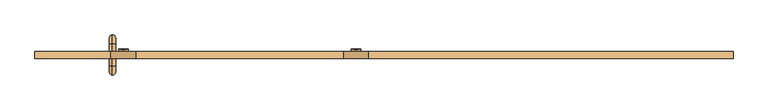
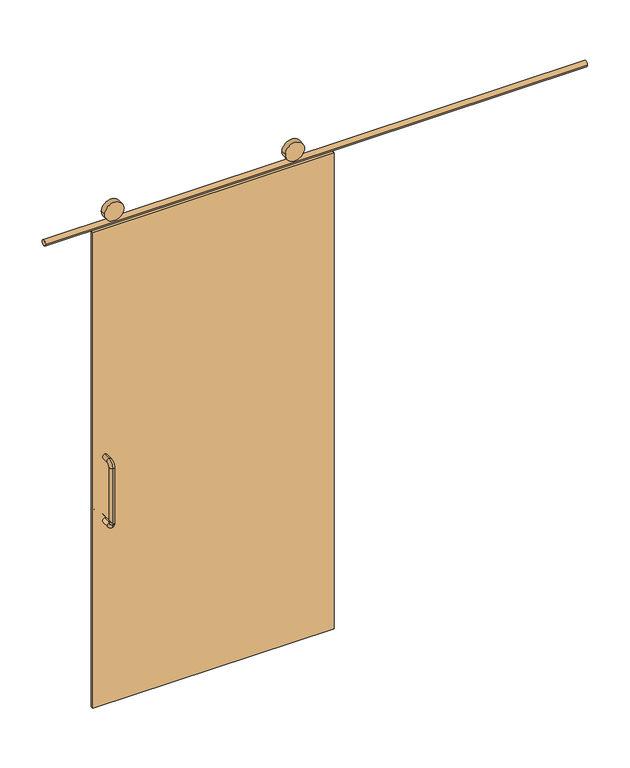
"""IFC4 building model written with IfcOpenShell, lengths in millimetres: door geometry, GLASSLINE_SKJUTDÖRR GLAS : GLASSLINE_SKJUTDÖRR GLAS."""

from ifc_helpers import new_model, si_unit, point, frame, frame_2d, origin, origin_with_axes, place, context, project, spatial, polyline, circle_curve, ellipse_curve, trimmed, segment, composite_curve, outline, extrude, source, transform, mapped, element, save
from ifc_brep_helpers import plane_surface, cylinder_surface, revolved_surface, advanced_brep


def door_12e92a34(model_context):
    return source(origin(), model_context, "Body", "SolidModel", [
        extrude(outline(composite_curve([segment(trimmed(circle_curve(frame_2d((2156.2499989, 335.0000488)), 15.0), [point((2156.2499989, 350.0000488))], [point((2156.2499989, 320.0000488))], False, "CARTESIAN"), True, "CONTINUOUS"), segment(trimmed(circle_curve(frame_2d((2156.2499989, 335.0000488)), 15.0), [point((2156.2499989, 320.0000488))], [point((2156.2499989, 350.0000488))], False, "CARTESIAN"), True, "CONTINUOUS")], self_intersect=False)), frame((0.0, 53.5002228, 0.0), z_axis=(0.0, 1.0, 0.0), x_axis=(0.0, 0.0, 1.0)), (0.0, 0.0, 1.0), 1.9998779),
        extrude(outline(composite_curve([segment(trimmed(circle_curve(frame_2d((2020.2500153, 335.0000488)), 15.0), [point((2020.2500153, 350.0000488))], [point((2020.2500153, 320.0000488))], False, "CARTESIAN"), True, "CONTINUOUS"), segment(trimmed(circle_curve(frame_2d((2020.2500153, 335.0000488)), 15.0), [point((2020.2500153, 320.0000488))], [point((2020.2500153, 350.0000488))], False, "CARTESIAN"), True, "CONTINUOUS")], self_intersect=False)), frame((0.0, 53.5002228, 0.0), z_axis=(0.0, 1.0, 0.0), x_axis=(0.0, 0.0, 1.0)), (0.0, 0.0, 1.0), 1.9998779),
        extrude(outline(composite_curve([segment(trimmed(circle_curve(frame_2d((1940.2501019, 335.0000488)), 15.0), [point((1940.2501019, 350.0000488))], [point((1940.2501019, 320.0000488))], False, "CARTESIAN"), True, "CONTINUOUS"), segment(trimmed(circle_curve(frame_2d((1940.2501019, 335.0000488)), 15.0), [point((1940.2501019, 320.0000488))], [point((1940.2501019, 350.0000488))], False, "CARTESIAN"), True, "CONTINUOUS")], self_intersect=False)), frame((0.0, 53.5002228, 0.0), z_axis=(0.0, 1.0, 0.0), x_axis=(0.0, 0.0, 1.0)), (0.0, 0.0, 1.0), 1.9998779),
        extrude(outline(composite_curve([segment(trimmed(circle_curve(frame_2d((2156.2499989, -415.0)), 15.0), [point((2156.2499989, -400.0))], [point((2156.2499989, -430.0))], False, "CARTESIAN"), True, "CONTINUOUS"), segment(trimmed(circle_curve(frame_2d((2156.2499989, -415.0)), 15.0), [point((2156.2499989, -430.0))], [point((2156.2499989, -400.0))], False, "CARTESIAN"), True, "CONTINUOUS")], self_intersect=False)), frame((0.0, 53.5002228, 0.0), z_axis=(0.0, 1.0, 0.0), x_axis=(0.0, 0.0, 1.0)), (0.0, 0.0, 1.0), 1.9998779),
        extrude(outline(composite_curve([segment(trimmed(circle_curve(frame_2d((2020.2500153, -415.0)), 15.0), [point((2020.2500153, -400.0))], [point((2020.2500153, -430.0))], False, "CARTESIAN"), True, "CONTINUOUS"), segment(trimmed(circle_curve(frame_2d((2020.2500153, -415.0)), 15.0), [point((2020.2500153, -430.0))], [point((2020.2500153, -400.0))], False, "CARTESIAN"), True, "CONTINUOUS")], self_intersect=False)), frame((0.0, 53.5002228, 0.0), z_axis=(0.0, 1.0, 0.0), x_axis=(0.0, 0.0, 1.0)), (0.0, 0.0, 1.0), 1.9998779),
        extrude(outline(composite_curve([segment(trimmed(circle_curve(frame_2d((1940.2501019, -415.0)), 15.0), [point((1940.2501019, -400.0))], [point((1940.2501019, -430.0))], False, "CARTESIAN"), True, "CONTINUOUS"), segment(trimmed(circle_curve(frame_2d((1940.2501019, -415.0)), 15.0), [point((1940.2501019, -430.0))], [point((1940.2501019, -400.0))], False, "CARTESIAN"), True, "CONTINUOUS")], self_intersect=False)), frame((0.0, 53.5002228, 0.0), z_axis=(0.0, 1.0, 0.0), x_axis=(0.0, 0.0, 1.0)), (0.0, 0.0, 1.0), 1.9998779),
        extrude(outline(polyline([(319.9998016, 53.5002228), (350.000296, 53.5002228), (350.000296, 48.4993652), (319.9998016, 48.4993652), (319.9998016, 53.5002228)])), frame((0.0, 0.0, 1870.2500141), z_axis=(0.0, 0.0, 1.0), x_axis=(1.0, 0.0, 0.0)), (0.0, 0.0, 1.0), 300.0000023),
        extrude(outline(polyline([(-430.0004944, 53.5002228), (-400.0, 53.5002228), (-400.0, 48.4993652), (-430.0004944, 48.4993652), (-430.0004944, 53.5002228)])), frame((0.0, 0.0, 1870.2500141), z_axis=(0.0, 0.0, 1.0), x_axis=(1.0, 0.0, 0.0)), (0.0, 0.0, 1.0), 300.0000023),
        extrude(outline(composite_curve([segment(trimmed(circle_curve(frame_2d((2156.2499989, -415.0)), 40.0), [point((2156.2499989, -375.0))], [point((2156.2499989, -455.0))], False, "CARTESIAN"), True, "CONTINUOUS"), segment(trimmed(circle_curve(frame_2d((2156.2499989, -415.0)), 40.0), [point((2156.2499989, -455.0))], [point((2156.2499989, -375.0))], False, "CARTESIAN"), True, "CONTINUOUS")], self_intersect=False)), frame((0.0, 23.4997284, 0.0), z_axis=(0.0, 1.0, 0.0), x_axis=(0.0, 0.0, 1.0)), (0.0, 0.0, 1.0), 23.9996979),
        extrude(outline(composite_curve([segment(trimmed(circle_curve(frame_2d((2156.2499989, 335.0000488)), 40.0), [point((2156.2499989, 375.0000488))], [point((2156.2499989, 295.0000488))], False, "CARTESIAN"), True, "CONTINUOUS"), segment(trimmed(circle_curve(frame_2d((2156.2499989, 335.0000488)), 40.0), [point((2156.2499989, 295.0000488))], [point((2156.2499989, 375.0000488))], False, "CARTESIAN"), True, "CONTINUOUS")], self_intersect=False)), frame((0.0, 23.4997284, 0.0), z_axis=(0.0, 1.0, 0.0), x_axis=(0.0, 0.0, 1.0)), (0.0, 0.0, 1.0), 23.9996979),
        advanced_brep(
        [(-450.0, 41.0, 1080.0081306), (-450.0, 41.0, 1100.0081306), (-450.0, 70.9990967, 1080.0081306), (-450.0, 70.9990967, 1100.0081306), (-450.0, 101.0072272, 1070.0), (-450.0, 81.0072272, 1070.0), (-450.0, 81.0072272, 830.0), (-450.0, 101.0072272, 830.0), (-450.0, 70.9990967, 799.9918694), (-450.0, 70.9990967, 819.9918694), (-450.0, 41.0, 819.9918694), (-450.0, 41.0, 799.9918694)],
        [
            (0, 1, circle_curve(frame((-450.0, 41.0, 1090.0081306), z_axis=(0.0, -1.0, 0.0), x_axis=(0.0, 0.0, 1.0)), 10.0)),
            (1, 0, circle_curve(frame((-450.0, 41.0, 1090.0081306), z_axis=(0.0, -1.0, 0.0), x_axis=(0.0, 0.0, 1.0)), 10.0)),
            (0, 2),
            (2, 3, circle_curve(frame((-450.0, 70.9990967, 1090.0081306), z_axis=(0.0, -1.0, 0.0), x_axis=(0.0, 0.0, 1.0)), 10.0)),
            (3, 1),
            (3, 2, circle_curve(frame((-450.0, 70.9990967, 1090.0081306), z_axis=(0.0, -1.0, 0.0), x_axis=(0.0, 0.0, 1.0)), 10.0)),
            (4, 3, circle_curve(frame((-450.0, 70.9990967, 1070.0), z_axis=(1.0, 0.0, 0.0), x_axis=(0.0, 0.0, 1.0)), 30.0081306)),
            (2, 5, circle_curve(frame((-450.0, 70.9990967, 1070.0), z_axis=(-1.0, 0.0, 0.0), x_axis=(0.0, 0.0, 1.0)), 10.0081306)),
            (5, 4, circle_curve(frame((-450.0, 91.0072272, 1070.0), z_axis=(0.0, 0.0, 1.0), x_axis=(0.0, 1.0, 0.0)), 10.0)),
            (4, 5, circle_curve(frame((-450.0, 91.0072272, 1070.0), z_axis=(0.0, 0.0, 1.0), x_axis=(0.0, 1.0, 0.0)), 10.0)),
            (5, 6),
            (6, 7, circle_curve(frame((-450.0, 91.0072272, 830.0), z_axis=(0.0, 0.0, 1.0), x_axis=(0.0, 1.0, 0.0)), 10.0)),
            (7, 4),
            (7, 6, circle_curve(frame((-450.0, 91.0072272, 830.0), z_axis=(0.0, 0.0, 1.0), x_axis=(0.0, 1.0, 0.0)), 10.0)),
            (8, 7, circle_curve(frame((-450.0, 70.9990967, 830.0), z_axis=(1.0, 0.0, 0.0), x_axis=(0.0, 1.0, 0.0)), 30.0081306)),
            (6, 9, circle_curve(frame((-450.0, 70.9990967, 830.0), z_axis=(-1.0, 0.0, 0.0), x_axis=(0.0, 1.0, 0.0)), 10.0081306)),
            (9, 8, circle_curve(frame((-450.0, 70.9990967, 809.9918694), z_axis=(0.0, 1.0, 0.0), x_axis=(0.0, 0.0, -1.0)), 10.0)),
            (8, 9, circle_curve(frame((-450.0, 70.9990967, 809.9918694), z_axis=(0.0, 1.0, 0.0), x_axis=(0.0, 0.0, -1.0)), 10.0)),
            (10, 11, circle_curve(frame((-450.0, 41.0, 809.9918694), z_axis=(0.0, -1.0, 0.0), x_axis=(0.0, 0.0, -1.0)), 10.0)),
            (11, 10, circle_curve(frame((-450.0, 41.0, 809.9918694), z_axis=(0.0, -1.0, 0.0), x_axis=(0.0, 0.0, -1.0)), 10.0)),
            (9, 10),
            (11, 8),
        ],
        [
            plane_surface(frame((82.5231001, 41.0, 1090.0), z_axis=(0.0, -1.0, 0.0), x_axis=(1.0, 0.0, 0.0))),
            cylinder_surface(frame((-450.0, 41.0, 1090.0081306), z_axis=(0.0, -1.0, 0.0), x_axis=(0.0, 0.0, 1.0)), 10.0),
            revolved_surface(trimmed(ellipse_curve(frame((-450.0, 70.9990967, 1090.0081306), z_axis=(0.0, -1.0, 0.0), x_axis=(0.0, 0.0, 1.0)), 10.0, 10.0), [point((-450.0, 70.9990967, 1080.0081306))], [point((-450.0, 70.9990967, 1100.0081306))], True, "CARTESIAN"), (82.5231001, 70.9990967, 1070.0), (-1.0, 0.0, 0.0)),
            revolved_surface(trimmed(ellipse_curve(frame((-450.0, 70.9990967, 1090.0081306), z_axis=(0.0, -1.0, 0.0), x_axis=(0.0, 0.0, 1.0)), 10.0, 10.0), [point((-450.0, 70.9990967, 1100.0081306))], [point((-450.0, 70.9990967, 1080.0081306))], True, "CARTESIAN"), (82.5231001, 70.9990967, 1070.0), (-1.0, 0.0, 0.0)),
            cylinder_surface(frame((-450.0, 91.0072272, 1070.0), z_axis=(0.0, 0.0, 1.0), x_axis=(0.0, 1.0, 0.0)), 10.0),
            revolved_surface(trimmed(ellipse_curve(frame((-450.0, 91.0072272, 830.0), z_axis=(0.0, 0.0, 1.0), x_axis=(0.0, 1.0, 0.0)), 10.0, 10.0), [point((-450.0, 81.0072272, 830.0))], [point((-450.0, 101.0072272, 830.0))], True, "CARTESIAN"), (82.5231001, 70.9990967, 830.0), (-1.0, 0.0, 0.0)),
            revolved_surface(trimmed(ellipse_curve(frame((-450.0, 91.0072272, 830.0), z_axis=(0.0, 0.0, 1.0), x_axis=(0.0, 1.0, 0.0)), 10.0, 10.0), [point((-450.0, 101.0072272, 830.0))], [point((-450.0, 81.0072272, 830.0))], True, "CARTESIAN"), (82.5231001, 70.9990967, 830.0), (-1.0, 0.0, 0.0)),
            plane_surface(frame((82.5231001, 41.0, 810.0), z_axis=(0.0, -1.0, 0.0), x_axis=(1.0, 0.0, 0.0))),
            cylinder_surface(frame((-450.0, 70.9990967, 809.9918694), z_axis=(0.0, 1.0, 0.0), x_axis=(0.0, 0.0, -1.0)), 10.0),
        ],
        [
            (0, [[1, 2]]),
            (1, [[-1, 3, 4, 5]]),
            (1, [[-2, -5, 6, -3]]),
            (2, [[7, -4, 8, 9]]),
            (3, [[-8, -6, -7, 10]]),
            (4, [[-9, 11, 12, 13]]),
            (4, [[-10, -13, 14, -11]]),
            (5, [[15, -12, 16, 17]]),
            (6, [[-16, -14, -15, 18]]),
            (7, [[19, 20]]),
            (8, [[-17, 21, -20, 22]]),
            (8, [[-18, -22, -19, -21]]),
        ],
    ),
        extrude(outline(composite_curve([segment(trimmed(circle_curve(frame_2d((35.5000977, 2110.250045)), 12.0), [point((23.5000977, 2110.250045))], [point((47.5000977, 2110.250045))], False, "CARTESIAN"), True, "CONTINUOUS"), segment(trimmed(circle_curve(frame_2d((35.5000977, 2110.250045)), 12.0), [point((47.5000977, 2110.250045))], [point((23.5000977, 2110.250045))], False, "CARTESIAN"), True, "CONTINUOUS")], self_intersect=False)), frame((-700.0005829, 0.0, 0.0), z_axis=(1.0, 0.0, 0.0), x_axis=(0.0, 1.0, 0.0)), (0.0, 0.0, 1.0), 2250.0),
        advanced_brep(
        [(-450.0, 30.0, 1100.0), (-450.0, 30.0, 1080.0), (-450.0, 1.0, 1100.0), (-450.0, 1.0, 1080.0), (-450.0, -9.0, 1070.0), (-450.0, -29.0, 1070.0), (-450.0, -29.0, 826.0), (-450.0, -9.0, 826.0), (-450.0, 30.0, 800.0), (-450.0, 30.0, 820.0), (-450.0, -3.0, 820.0), (-450.0, -3.0, 800.0)],
        [
            (0, 1, circle_curve(frame((-450.0, 30.0, 1090.0), z_axis=(0.0, 1.0, 0.0), x_axis=(0.0, 0.0, -1.0)), 10.0)),
            (1, 0, circle_curve(frame((-450.0, 30.0, 1090.0), z_axis=(0.0, 1.0, 0.0), x_axis=(0.0, 0.0, -1.0)), 10.0)),
            (0, 2),
            (2, 3, circle_curve(frame((-450.0, 1.0, 1090.0), z_axis=(0.0, 1.0, 0.0), x_axis=(0.0, 0.0, -1.0)), 10.0)),
            (3, 1),
            (3, 2, circle_curve(frame((-450.0, 1.0, 1090.0), z_axis=(0.0, 1.0, 0.0), x_axis=(0.0, 0.0, -1.0)), 10.0)),
            (4, 5, circle_curve(frame((-450.0, -19.0, 1070.0), z_axis=(0.0, 0.0, -1.0), x_axis=(0.0, 1.0, 0.0)), 10.0)),
            (5, 6),
            (6, 7, circle_curve(frame((-450.0, -19.0, 826.0), z_axis=(0.0, 0.0, 1.0), x_axis=(0.0, 1.0, 0.0)), 10.0)),
            (7, 4),
            (5, 4, circle_curve(frame((-450.0, -19.0, 1070.0), z_axis=(0.0, 0.0, -1.0), x_axis=(0.0, 1.0, 0.0)), 10.0)),
            (7, 6, circle_curve(frame((-450.0, -19.0, 826.0), z_axis=(0.0, 0.0, 1.0), x_axis=(0.0, 1.0, 0.0)), 10.0)),
            (8, 9, circle_curve(frame((-450.0, 30.0, 810.0), z_axis=(0.0, 1.0, 0.0), x_axis=(0.0, 0.0, 1.0)), 10.0)),
            (9, 8, circle_curve(frame((-450.0, 30.0, 810.0), z_axis=(0.0, 1.0, 0.0), x_axis=(0.0, 0.0, 1.0)), 10.0)),
            (10, 11, circle_curve(frame((-450.0, -3.0, 810.0), z_axis=(0.0, 1.0, 0.0), x_axis=(0.0, 0.0, 1.0)), 10.0)),
            (11, 8),
            (9, 10),
            (11, 10, circle_curve(frame((-450.0, -3.0, 810.0), z_axis=(0.0, 1.0, 0.0), x_axis=(0.0, 0.0, 1.0)), 10.0)),
            (4, 3, circle_curve(frame((-450.0, 1.0, 1070.0), z_axis=(-1.0, 0.0, 0.0), x_axis=(0.0, 0.0, 1.0)), 10.0)),
            (2, 5, circle_curve(frame((-450.0, 1.0, 1070.0), z_axis=(1.0, 0.0, 0.0), x_axis=(0.0, 0.0, 1.0)), 30.0)),
            (10, 7, circle_curve(frame((-450.0, -3.0, 826.0), z_axis=(-1.0, 0.0, 0.0), x_axis=(0.0, -1.0, 0.0)), 6.0)),
            (6, 11, circle_curve(frame((-450.0, -3.0, 826.0), z_axis=(1.0, 0.0, 0.0), x_axis=(0.0, -1.0, 0.0)), 26.0)),
        ],
        [
            plane_surface(frame((82.5231001, 30.0, 1090.0), z_axis=(0.0, 1.0, 0.0), x_axis=(1.0, 0.0, 0.0))),
            cylinder_surface(frame((-450.0, 30.0, 1090.0), z_axis=(0.0, 1.0, 0.0), x_axis=(0.0, 0.0, -1.0)), 10.0),
            cylinder_surface(frame((-450.0, -19.0, 1070.0), z_axis=(0.0, 0.0, 1.0), x_axis=(0.0, 1.0, 0.0)), 10.0),
            plane_surface(frame((82.5231001, 30.0, 810.0), z_axis=(0.0, 1.0, 0.0), x_axis=(1.0, 0.0, 0.0))),
            cylinder_surface(frame((-450.0, -3.0, 810.0), z_axis=(0.0, -1.0, 0.0), x_axis=(0.0, 0.0, 1.0)), 10.0),
            revolved_surface(trimmed(ellipse_curve(frame((-450.0, 1.0, 1090.0), z_axis=(0.0, 1.0, 0.0), x_axis=(0.0, 0.0, -1.0)), 10.0, 10.0), [point((-450.0, 1.0, 1100.0))], [point((-450.0, 1.0, 1080.0))], True, "CARTESIAN"), (82.5231001, 1.0, 1070.0), (1.0, 0.0, 0.0)),
            revolved_surface(trimmed(ellipse_curve(frame((-450.0, 1.0, 1090.0), z_axis=(0.0, 1.0, 0.0), x_axis=(0.0, 0.0, -1.0)), 10.0, 10.0), [point((-450.0, 1.0, 1080.0))], [point((-450.0, 1.0, 1100.0))], True, "CARTESIAN"), (82.5231001, 1.0, 1070.0), (1.0, 0.0, 0.0)),
            revolved_surface(trimmed(ellipse_curve(frame((-450.0, -19.0, 826.0), z_axis=(0.0, 0.0, 1.0), x_axis=(0.0, 1.0, 0.0)), 10.0, 10.0), [point((-450.0, -29.0, 826.0))], [point((-450.0, -9.0, 826.0))], True, "CARTESIAN"), (82.5231001, -3.0, 826.0), (1.0, 0.0, 0.0)),
            revolved_surface(trimmed(ellipse_curve(frame((-450.0, -19.0, 826.0), z_axis=(0.0, 0.0, 1.0), x_axis=(0.0, 1.0, 0.0)), 10.0, 10.0), [point((-450.0, -9.0, 826.0))], [point((-450.0, -29.0, 826.0))], True, "CARTESIAN"), (82.5231001, -3.0, 826.0), (1.0, 0.0, 0.0)),
        ],
        [
            (0, [[1, 2]]),
            (1, [[-1, 3, 4, 5]]),
            (1, [[-2, -5, 6, -3]]),
            (2, [[7, 8, 9, 10]]),
            (2, [[11, -10, 12, -8]]),
            (3, [[13, 14]]),
            (4, [[15, 16, -14, 17]]),
            (4, [[18, -17, -13, -16]]),
            (5, [[19, -4, 20, -7]]),
            (6, [[-20, -6, -19, -11]]),
            (7, [[21, -9, 22, -15]]),
            (8, [[-22, -12, -21, -18]]),
        ],
    ),
        extrude(outline(polyline([(500.0, 41.0), (500.0, 30.0), (-500.0, 30.0), (-500.0, 41.0), (500.0, 41.0)])), origin_with_axes(), (0.0, 0.0, 1.0), 2090.000045),
    ])


if __name__ == "__main__":
    model = new_model("IFC4")
    model_context = context("Model", 3, world=origin())
    ifc_project = project(units=[si_unit("LENGTHUNIT", "METRE", prefix="MILLI")], contexts=[model_context])
    site = spatial("IfcSite", under=ifc_project)
    building = spatial("IfcBuilding", under=site)
    placement = place(None, origin())
    door_shape = door_12e92a34(model_context)
    element("IfcDoor", 1, ObjectType="GLASSLINE_SKJUTDÖRR GLAS : GLASSLINE_SKJUTDÖRR GLAS", at=placement, inside=building, context=model_context, shape_type="MappedRepresentation", body=[
        mapped(door_shape, transform((0.0, 0.0, 0.0), x_axis=(1.0, 0.0, 0.0), y_axis=(0.0, 1.0, 0.0), z_axis=(0.0, 0.0, 1.0))),
    ])
    save(model, "model.ifc")
